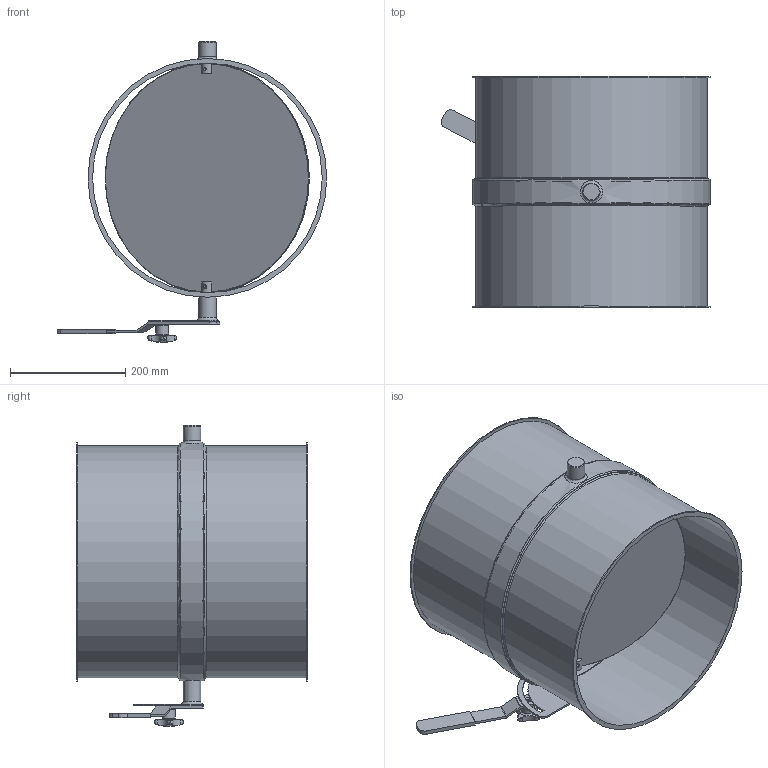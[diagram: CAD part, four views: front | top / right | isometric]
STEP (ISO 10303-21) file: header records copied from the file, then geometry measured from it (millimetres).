
FILE_DESCRIPTION((''),'2;1');
FILE_NAME('U:\Wolfgang\Marcel-3D\fertig\Kapitel 8\4021076.stp','2012-01-13T11:24:08',('iwienholt'),(''),'Autodesk Inventor 2010','Autodesk Inventor 2010','');
FILE_SCHEMA(('AUTOMOTIVE_DESIGN { 1 0 10303 214 1 1 1 1 }'));
Length unit declared in the file: millimetre
Products named in the file (7): 4021076; Bolzen D20; ganter_din_6335-ku-50-m10-k; Umstellsegment D20; Scheibe400b; Griff D20b; 4021076-1
Assembly tree (6 placements, depth 2):
  4021076
    Bolzen D20
    ganter_din_6335-ku-50-m10-k
    Umstellsegment D20
    Scheibe400b
    Griff D20b
    4021076-1
Bounding box: 467.41 x 400 x 522 mm (x, y, z)
Volume: 1804428.7 mm3; surface area: 1473328.1 mm2
Topology: 6 solids, 6 shells, 137 faces, 334 edges, 222 vertices
Faces by surface type: cylinder 54, plane 53, torus 13, bspline 11, cone 5, sphere 1
Full cylindrical faces by diameter (mm): 6 x4, 8 x1, 9 x1, 10 x2, 16 x1, 20 x8, 22 x1, 30 x3, 398 x3, 399 x1, 402 x2, 407 x1, 408 x1, 412 x1, 414 x2
Entity records: 5169 total; most frequent: CARTESIAN_POINT 1992, DIRECTION 626, ORIENTED_EDGE 532, AXIS2_PLACEMENT_3D 270, EDGE_CURVE 266, EDGE_LOOP 228, VERTEX_POINT 206, FACE_OUTER_BOUND 137
